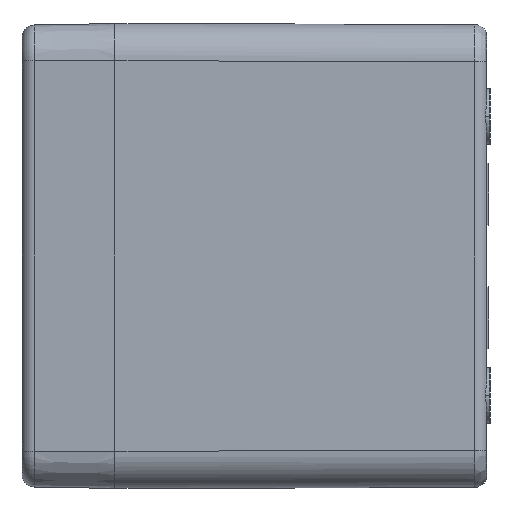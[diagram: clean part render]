
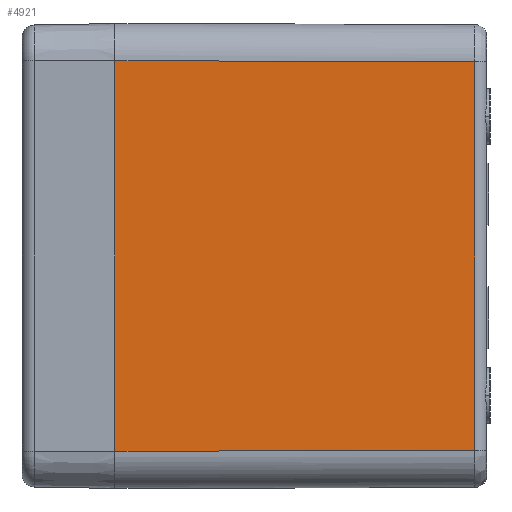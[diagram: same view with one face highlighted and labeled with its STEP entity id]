
A CAD part, left-side view. The second image highlights one B-rep face of the part: STEP entity #4921.
In plain terms, the highlighted planar face has unit normal (-1, -0.003, 0).
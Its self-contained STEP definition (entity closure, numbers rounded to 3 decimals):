
#527=CARTESIAN_POINT('',(-95.,0.,-31.5));
#575=CARTESIAN_POINT('',(-95.,0.,31.5));
#586=DIRECTION('',(0.,0.,-1.));
#587=VECTOR('',#586,63.);
#588=CARTESIAN_POINT('',(-95.,0.,31.5));
#589=LINE('',#588,#587);
#1583=DIRECTION('',(0.,0.,1.));
#1584=VECTOR('',#1583,62.71);
#1585=CARTESIAN_POINT('',(-94.855,-58.005,
-31.355));
#1586=LINE('',#1585,#1584);
#1632=DIRECTION('',(-0.003,1.,-0.002));
#1633=VECTOR('',#1632,58.005);
#1634=CARTESIAN_POINT('',(-94.855,-58.005,
-31.355));
#1635=LINE('',#1634,#1633);
#1639=DIRECTION('',(-0.003,1.,0.002));
#1640=VECTOR('',#1639,58.005);
#1641=CARTESIAN_POINT('',(-94.855,-58.005,
31.355));
#1642=LINE('',#1641,#1640);
#1646=CARTESIAN_POINT('',(-94.855,-58.005,
-31.355));
#1753=CARTESIAN_POINT('',(-94.855,-58.005,
31.355));
#3347=VERTEX_POINT('',#527);
#3352=VERTEX_POINT('',#575);
#3356=VERTEX_POINT('',#1646);
#3373=VERTEX_POINT('',#1753);
#4908=CARTESIAN_POINT('',(-94.925,-30.,0.));
#4909=DIRECTION('',(1.,0.002,0.));
#4910=DIRECTION('',(-0.002,1.,0.));
#4911=AXIS2_PLACEMENT_3D('',#4908,#4909,#4910);
#4912=PLANE('',#4911);
#4913=ORIENTED_EDGE('',*,*,#4868,.F.);
#4915=ORIENTED_EDGE('',*,*,#4914,.T.);
#4916=ORIENTED_EDGE('',*,*,#3807,.F.);
#4918=ORIENTED_EDGE('',*,*,#4917,.F.);
#4919=EDGE_LOOP('',(#4913,#4915,#4916,#4918));
#4920=FACE_OUTER_BOUND('',#4919,.F.);
#3807=EDGE_CURVE('',#3352,#3347,#589,.T.);
#4868=EDGE_CURVE('',#3356,#3373,#1586,.T.);
#4914=EDGE_CURVE('',#3356,#3347,#1635,.T.);
#4917=EDGE_CURVE('',#3373,#3352,#1642,.T.);
#4921=ADVANCED_FACE('',(#4920),#4912,.F.);
